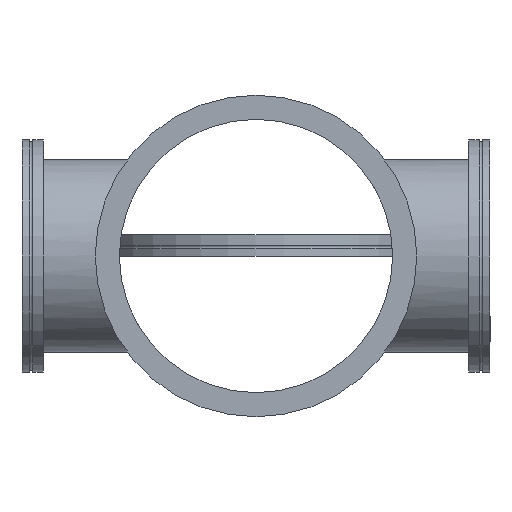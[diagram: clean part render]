
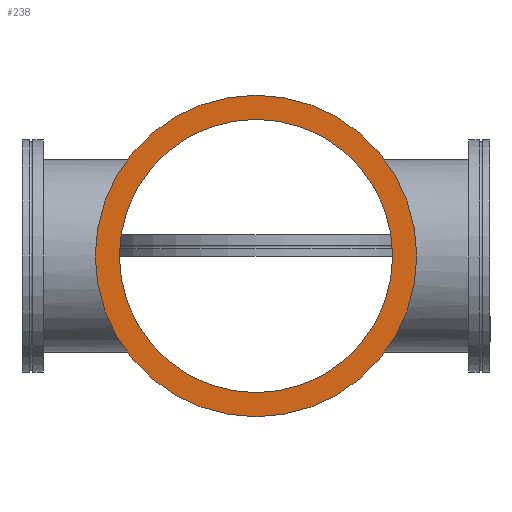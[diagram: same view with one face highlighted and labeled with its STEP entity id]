
A CAD part, front view. The second image highlights one B-rep face of the part: STEP entity #238.
In plain terms, the highlighted planar face has unit normal (0, -1, 0) as drawn and (0, 0, -1) by its records, which use the part's own axes.
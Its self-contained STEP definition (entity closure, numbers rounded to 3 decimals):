
#238 = ADVANCED_FACE( '', ( #329, #330 ), #331, .F. );
#329 = FACE_BOUND( '', #429, .T. );
#330 = FACE_OUTER_BOUND( '', #430, .T. );
#331 = PLANE( '', #431 );
#429 = EDGE_LOOP( '', ( #541 ) );
#430 = EDGE_LOOP( '', ( #542 ) );
#431 = AXIS2_PLACEMENT_3D( '', #543, #544, #545 );
#541 = ORIENTED_EDGE( '', *, *, #1295, .F. );
#542 = ORIENTED_EDGE( '', *, *, #1296, .T. );
#543 = CARTESIAN_POINT( '', ( -76.5, 0., 0. ) );
#544 = DIRECTION( '', ( 0., 0., 1. ) );
#545 = DIRECTION( '', ( 1., 0., 0. ) );
#1295 = EDGE_CURVE( '', #1345, #1345, #1346, .T. );
#1296 = EDGE_CURVE( '', #1347, #1347, #1348, .T. );
#1345 = VERTEX_POINT( '', #1397 );
#1346 = CIRCLE( '', #1398, 76.5 );
#1347 = VERTEX_POINT( '', #1399 );
#1348 = CIRCLE( '', #1400, 90. );
#1397 = CARTESIAN_POINT( '', ( -76.5, 0., 0. ) );
#1398 = AXIS2_PLACEMENT_3D( '', #1449, #1450, #1451 );
#1399 = CARTESIAN_POINT( '', ( -90., 0., 0. ) );
#1400 = AXIS2_PLACEMENT_3D( '', #1452, #1453, #1454 );
#1449 = CARTESIAN_POINT( '', ( 0., 0., 0. ) );
#1450 = DIRECTION( '', ( 0., 0., -1. ) );
#1451 = DIRECTION( '', ( -1., 0., 0. ) );
#1452 = CARTESIAN_POINT( '', ( 0., 0., 0. ) );
#1453 = DIRECTION( '', ( 0., 0., -1. ) );
#1454 = DIRECTION( '', ( -1., 0., 0. ) );
